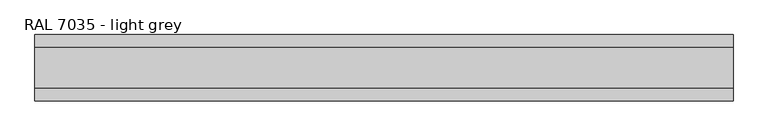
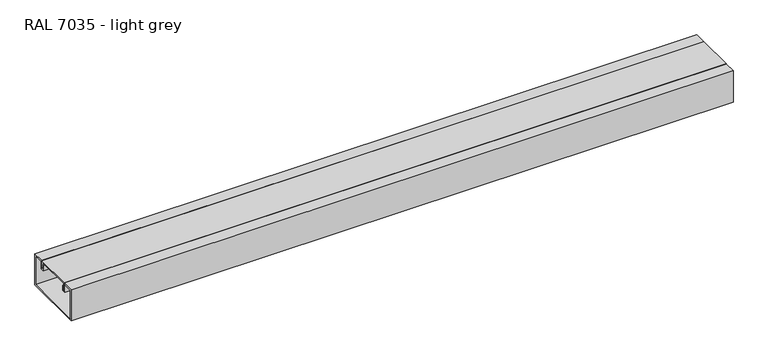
"""IFC4 building model written with IfcOpenShell, lengths in millimetres: proxy geometry, Electrical_Installations_Hager_BRP-Lid-End-Cap-One-Compartment : RAL 7035 - light grey."""

from ifc_helpers import new_model, si_unit, frame, origin, place, context, project, spatial, polyline, outline, extrude, source, transform, mapped, element, save


def ral_7035_light_grey_27fdf9d3(model_context):
    return source(origin(), model_context, "Body", "SweptSolid", [
        extrude(outline(polyline([(40.0, 18.6492509), (37.5361498, 18.6492509), (37.5361498, 30.0), (-37.5361498, 30.0), (-37.5361498, 18.6492509), (-40.0, 18.6492509), (-40.0, 33.0), (40.0, 33.0), (40.0, 18.6492509)])), frame((0.0, 0.0, 0.0), z_axis=(1.0, 0.0, 0.0), x_axis=(0.0, 1.0, 0.0)), (0.0, 0.0, 1.0), 1370.4873396),
        extrude(outline(polyline([(65.0, 33.0), (65.0, -35.0582587), (-65.0, -35.0582587), (-65.0, 33.0), (-40.5, 33.0), (-40.5, 16.0), (-36.578125, 16.0), (-36.578125, 24.0415809), (-35.3, 24.0415809), (-35.3, 14.0), (-42.5, 14.0), (-42.5, 30.0), (-62.0, 30.0), (-62.0, -32.0582587), (62.0, -32.0582587), (62.0, 30.0), (42.5, 30.0), (42.5, 14.0), (35.221875, 14.0), (35.221875, 24.0415809), (36.5, 24.0415809), (36.5, 16.0), (40.5, 16.0), (40.5, 33.0), (65.0, 33.0)])), frame((0.0, 0.0, 0.0), z_axis=(1.0, 0.0, 0.0), x_axis=(0.0, 1.0, 0.0)), (0.0, 0.0, 1.0), 1370.4873396),
    ])


if __name__ == "__main__":
    model = new_model("IFC4")
    model_context = context("Model", 3, world=origin())
    ifc_project = project(units=[si_unit("LENGTHUNIT", "METRE", prefix="MILLI")], contexts=[model_context])
    site = spatial("IfcSite", under=ifc_project)
    building = spatial("IfcBuilding", under=site)
    placement = place(None, origin())
    ral_7035_light_grey_shape = ral_7035_light_grey_27fdf9d3(model_context)
    element("IfcBuildingElementProxy", 1, Name="Electrical_Installations_Hager_BRP-Lid-End-Cap-One-Compartment : RAL 7035 - light grey", ObjectType="Electrical_Installations_Hager_BRP-Lid-End-Cap-One-Compartment : RAL 7035 - light grey", at=placement, inside=building, context=model_context, shape_type="MappedRepresentation", body=[
        mapped(ral_7035_light_grey_shape, transform((0.0, 0.0, 0.0), x_axis=(1.0, 0.0, 0.0), y_axis=(0.0, 1.0, 0.0), z_axis=(0.0, 0.0, 1.0))),
    ])
    save(model, "model.ifc")
